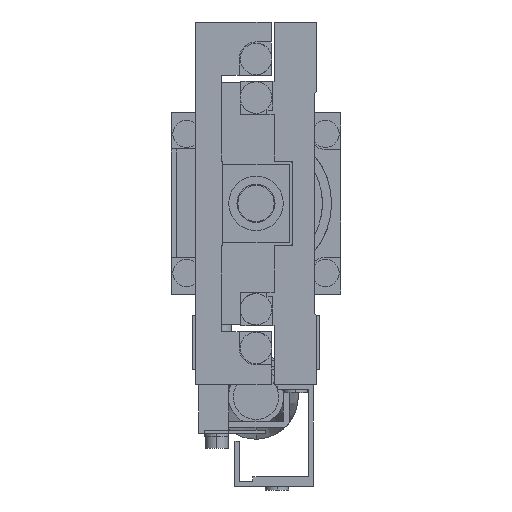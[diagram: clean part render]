
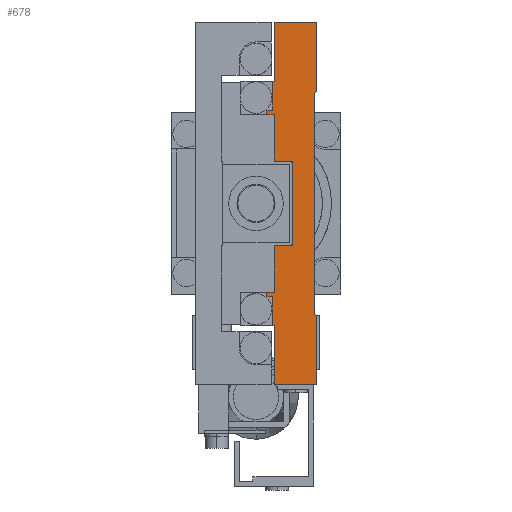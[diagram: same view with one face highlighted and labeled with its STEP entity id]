
A CAD part, left-side view. The second image highlights one B-rep face of the part: STEP entity #678.
In plain terms, the highlighted planar face has unit normal (-1, 0, 0).
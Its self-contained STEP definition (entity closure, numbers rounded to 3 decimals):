
#678=ADVANCED_FACE('',(#1824),#1825,.F.);
#1824=FACE_OUTER_BOUND('',#3397,.T.);
#1825=PLANE('',#3398);
#3397=EDGE_LOOP('',(#7059,#7060,#7061,#7062,#7063,#7064,#7065,#7066,#7067,#7068,#7069,#7070,#7071,#7072,#7073,#7074,#7075,#7076,#7077,#7078,#7079,#7080,#7081,#7082));
#3398=AXIS2_PLACEMENT_3D('',#7083,#7084,#7085);
#7059=ORIENTED_EDGE('',*,*,#11014,.T.);
#7060=ORIENTED_EDGE('',*,*,#11015,.T.);
#7061=ORIENTED_EDGE('',*,*,#11016,.T.);
#7062=ORIENTED_EDGE('',*,*,#11017,.F.);
#7063=ORIENTED_EDGE('',*,*,#11018,.F.);
#7064=ORIENTED_EDGE('',*,*,#11019,.F.);
#7065=ORIENTED_EDGE('',*,*,#11020,.F.);
#7066=ORIENTED_EDGE('',*,*,#11021,.F.);
#7067=ORIENTED_EDGE('',*,*,#11022,.F.);
#7068=ORIENTED_EDGE('',*,*,#11023,.F.);
#7069=ORIENTED_EDGE('',*,*,#11024,.F.);
#7070=ORIENTED_EDGE('',*,*,#11025,.F.);
#7071=ORIENTED_EDGE('',*,*,#11026,.F.);
#7072=ORIENTED_EDGE('',*,*,#11027,.F.);
#7073=ORIENTED_EDGE('',*,*,#11028,.T.);
#7074=ORIENTED_EDGE('',*,*,#11029,.T.);
#7075=ORIENTED_EDGE('',*,*,#11030,.T.);
#7076=ORIENTED_EDGE('',*,*,#11031,.F.);
#7077=ORIENTED_EDGE('',*,*,#11032,.F.);
#7078=ORIENTED_EDGE('',*,*,#11033,.F.);
#7079=ORIENTED_EDGE('',*,*,#11008,.F.);
#7080=ORIENTED_EDGE('',*,*,#11034,.F.);
#7081=ORIENTED_EDGE('',*,*,#11035,.F.);
#7082=ORIENTED_EDGE('',*,*,#11036,.F.);
#7083=CARTESIAN_POINT('',(-30.0,0.,0.0));
#7084=DIRECTION('',(1.0,0.0,0.0));
#7085=DIRECTION('',(0.0,1.0,0.0));
#11008=EDGE_CURVE('',#13446,#13447,#13448,.T.);
#11014=EDGE_CURVE('',#13457,#13458,#13459,.T.);
#11015=EDGE_CURVE('',#13458,#13460,#13461,.T.);
#11016=EDGE_CURVE('',#13460,#13462,#13463,.T.);
#11017=EDGE_CURVE('',#13464,#13462,#13465,.T.);
#11018=EDGE_CURVE('',#13466,#13464,#13467,.T.);
#11019=EDGE_CURVE('',#13468,#13466,#13469,.T.);
#11020=EDGE_CURVE('',#13470,#13468,#13471,.T.);
#11021=EDGE_CURVE('',#13472,#13470,#13473,.T.);
#11022=EDGE_CURVE('',#13474,#13472,#13475,.T.);
#11023=EDGE_CURVE('',#13476,#13474,#13477,.T.);
#11024=EDGE_CURVE('',#13478,#13476,#13479,.T.);
#11025=EDGE_CURVE('',#13480,#13478,#13481,.T.);
#11026=EDGE_CURVE('',#13482,#13480,#13483,.T.);
#11027=EDGE_CURVE('',#13484,#13482,#13485,.T.);
#11028=EDGE_CURVE('',#13484,#13486,#13487,.T.);
#11029=EDGE_CURVE('',#13486,#13488,#13489,.T.);
#11030=EDGE_CURVE('',#13488,#13490,#13491,.T.);
#11031=EDGE_CURVE('',#13492,#13490,#13493,.T.);
#11032=EDGE_CURVE('',#13494,#13492,#13495,.T.);
#11033=EDGE_CURVE('',#13447,#13494,#13496,.T.);
#11034=EDGE_CURVE('',#13497,#13446,#13498,.T.);
#11035=EDGE_CURVE('',#13499,#13497,#13500,.T.);
#11036=EDGE_CURVE('',#13457,#13499,#13501,.T.);
#13446=VERTEX_POINT('',#17066);
#13447=VERTEX_POINT('',#17067);
#13448=LINE('',#17068,#17069);
#13457=VERTEX_POINT('',#17081);
#13458=VERTEX_POINT('',#17082);
#13459=LINE('',#17083,#17084);
#13460=VERTEX_POINT('',#17085);
#13461=LINE('',#17086,#17087);
#13462=VERTEX_POINT('',#17088);
#13463=LINE('',#17089,#17090);
#13464=VERTEX_POINT('',#17091);
#13465=LINE('',#17092,#17093);
#13466=VERTEX_POINT('',#17094);
#13467=LINE('',#17095,#17096);
#13468=VERTEX_POINT('',#17097);
#13469=LINE('',#17098,#17099);
#13470=VERTEX_POINT('',#17100);
#13471=LINE('',#17101,#17102);
#13472=VERTEX_POINT('',#17103);
#13473=LINE('',#17104,#17105);
#13474=VERTEX_POINT('',#17106);
#13475=LINE('',#17107,#17108);
#13476=VERTEX_POINT('',#17109);
#13477=LINE('',#17110,#17111);
#13478=VERTEX_POINT('',#17112);
#13479=LINE('',#17113,#17114);
#13480=VERTEX_POINT('',#17115);
#13481=LINE('',#17116,#17117);
#13482=VERTEX_POINT('',#17118);
#13483=LINE('',#17119,#17120);
#13484=VERTEX_POINT('',#17121);
#13485=LINE('',#17122,#17123);
#13486=VERTEX_POINT('',#17124);
#13487=LINE('',#17125,#17126);
#13488=VERTEX_POINT('',#17127);
#13489=LINE('',#17128,#17129);
#13490=VERTEX_POINT('',#17130);
#13491=LINE('',#17131,#17132);
#13492=VERTEX_POINT('',#17133);
#13493=LINE('',#17134,#17135);
#13494=VERTEX_POINT('',#17136);
#13495=LINE('',#17137,#17138);
#13496=LINE('',#17139,#17140);
#13497=VERTEX_POINT('',#17141);
#13498=LINE('',#17142,#17143);
#13499=VERTEX_POINT('',#17144);
#13500=LINE('',#17145,#17146);
#13501=LINE('',#17147,#17148);
#17066=CARTESIAN_POINT('',(-30.0,4.0,-7.0));
#17067=CARTESIAN_POINT('',(-30.0,4.0,7.0));
#17068=CARTESIAN_POINT('',(-30.0,4.0,-7.0));
#17069=VECTOR('',#20896,1000.0);
#17081=CARTESIAN_POINT('',(-30.0,8.2,-14.7));
#17082=CARTESIAN_POINT('',(-30.0,8.2,-15.421));
#17083=CARTESIAN_POINT('',(-30.0,8.2,-14.7));
#17084=VECTOR('',#20906,1000.0);
#17085=CARTESIAN_POINT('',(-30.0,7.225,-15.421));
#17086=CARTESIAN_POINT('',(-30.0,8.2,-15.421));
#17087=VECTOR('',#20907,1000.0);
#17088=CARTESIAN_POINT('',(-30.0,7.225,-20.2));
#17089=CARTESIAN_POINT('',(-30.0,7.225,-15.421));
#17090=VECTOR('',#20908,1000.0);
#17091=CARTESIAN_POINT('',(-30.0,7.0,-20.2));
#17092=CARTESIAN_POINT('',(-30.0,7.0,-20.2));
#17093=VECTOR('',#20909,1000.0);
#17094=CARTESIAN_POINT('',(-30.0,7.0,-30.0));
#17095=CARTESIAN_POINT('',(-30.0,7.0,-30.0));
#17096=VECTOR('',#20910,1000.0);
#17097=CARTESIAN_POINT('',(-30.0,0.,-30.0));
#17098=CARTESIAN_POINT('',(-30.0,0.,-30.0));
#17099=VECTOR('',#20911,1000.0);
#17100=CARTESIAN_POINT('',(-30.0,0.,-18.5));
#17101=CARTESIAN_POINT('',(-30.0,0.,-18.5));
#17102=VECTOR('',#20912,1000.0);
#17103=CARTESIAN_POINT('',(-30.0,0.35,-18.15));
#17104=CARTESIAN_POINT('',(-30.0,0.35,-18.15));
#17105=VECTOR('',#20913,1000.0);
#17106=CARTESIAN_POINT('',(-30.0,0.35,18.15));
#17107=CARTESIAN_POINT('',(-30.0,0.35,18.15));
#17108=VECTOR('',#20914,1000.0);
#17109=CARTESIAN_POINT('',(-30.0,0.,18.5));
#17110=CARTESIAN_POINT('',(-30.0,0.,18.5));
#17111=VECTOR('',#20915,1000.0);
#17112=CARTESIAN_POINT('',(-30.0,0.,30.0));
#17113=CARTESIAN_POINT('',(-30.0,0.,30.0));
#17114=VECTOR('',#20916,1000.0);
#17115=CARTESIAN_POINT('',(-30.0,7.0,30.0));
#17116=CARTESIAN_POINT('',(-30.0,7.0,30.0));
#17117=VECTOR('',#20917,1000.0);
#17118=CARTESIAN_POINT('',(-30.0,7.0,20.2));
#17119=CARTESIAN_POINT('',(-30.0,7.0,20.2));
#17120=VECTOR('',#20918,1000.0);
#17121=CARTESIAN_POINT('',(-30.0,7.225,20.2));
#17122=CARTESIAN_POINT('',(-30.0,12.5,20.2));
#17123=VECTOR('',#20919,1000.0);
#17124=CARTESIAN_POINT('',(-30.0,7.225,15.421));
#17125=CARTESIAN_POINT('',(-30.0,7.225,20.2));
#17126=VECTOR('',#20920,1000.0);
#17127=CARTESIAN_POINT('',(-30.0,8.2,15.421));
#17128=CARTESIAN_POINT('',(-30.0,7.225,15.421));
#17129=VECTOR('',#20921,1000.0);
#17130=CARTESIAN_POINT('',(-30.0,8.2,14.7));
#17131=CARTESIAN_POINT('',(-30.0,8.2,15.421));
#17132=VECTOR('',#20922,1000.0);
#17133=CARTESIAN_POINT('',(-30.0,7.0,14.7));
#17134=CARTESIAN_POINT('',(-30.0,7.0,14.7));
#17135=VECTOR('',#20923,1000.0);
#17136=CARTESIAN_POINT('',(-30.0,7.0,7.0));
#17137=CARTESIAN_POINT('',(-30.0,7.0,7.0));
#17138=VECTOR('',#20924,1000.0);
#17139=CARTESIAN_POINT('',(-30.0,4.0,7.0));
#17140=VECTOR('',#20925,1000.0);
#17141=CARTESIAN_POINT('',(-30.0,7.0,-7.0));
#17142=CARTESIAN_POINT('',(-30.0,7.0,-7.0));
#17143=VECTOR('',#20926,1000.0);
#17144=CARTESIAN_POINT('',(-30.0,7.0,-14.7));
#17145=CARTESIAN_POINT('',(-30.0,7.0,-14.7));
#17146=VECTOR('',#20927,1000.0);
#17147=CARTESIAN_POINT('',(-30.0,12.5,-14.7));
#17148=VECTOR('',#20928,1000.0);
#20896=DIRECTION('',(0.0,0.0,1.0));
#20906=DIRECTION('',(0.0,0.0,-1.0));
#20907=DIRECTION('',(0.0,-1.0,0.0));
#20908=DIRECTION('',(0.0,0.0,-1.0));
#20909=DIRECTION('',(0.0,1.0,0.0));
#20910=DIRECTION('',(0.0,0.0,1.0));
#20911=DIRECTION('',(0.0,1.0,0.0));
#20912=DIRECTION('',(0.0,0.0,-1.0));
#20913=DIRECTION('',(0.0,-0.707,-0.707));
#20914=DIRECTION('',(0.0,0.,-1.0));
#20915=DIRECTION('',(0.0,0.707,-0.707));
#20916=DIRECTION('',(0.0,0.0,-1.0));
#20917=DIRECTION('',(0.0,-1.0,0.0));
#20918=DIRECTION('',(0.0,0.0,1.0));
#20919=DIRECTION('',(0.0,-1.0,0.0));
#20920=DIRECTION('',(0.0,0.0,-1.0));
#20921=DIRECTION('',(0.0,1.0,0.0));
#20922=DIRECTION('',(0.0,0.0,-1.0));
#20923=DIRECTION('',(0.0,1.0,0.0));
#20924=DIRECTION('',(0.0,0.,1.0));
#20925=DIRECTION('',(0.0,1.0,0.0));
#20926=DIRECTION('',(0.0,-1.0,0.0));
#20927=DIRECTION('',(0.0,0.,1.0));
#20928=DIRECTION('',(0.0,-1.0,0.0));
